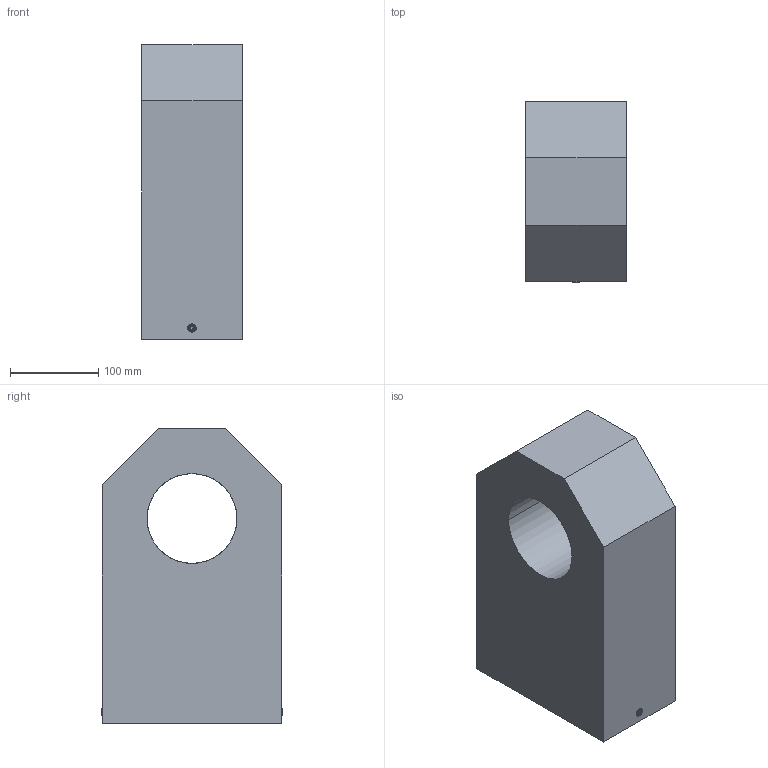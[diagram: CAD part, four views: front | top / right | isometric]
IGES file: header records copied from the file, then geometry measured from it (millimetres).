
Start section: SolidWorks IGES file using analytic representation for surfaces
Global section: file name: C:\Manufacturing Design Services\Taperline Manufacturing\Rod Eyes\RE 4000\RE 4000.IGS; native system: SolidWorks 2010; preprocessor: SolidWorks 2010; author: ProBook; date: 111205.223031; units: inch
Bounding box: 114.3 x 204.79 x 333.38 mm (x, y, z)
Surface area: 287843.4 mm2 (no closed solid volume)
Topology: 0 solids, 0 shells, 331 faces, 4426 edges, 4422 vertices
Faces by surface type: revolution 292, bspline 39
